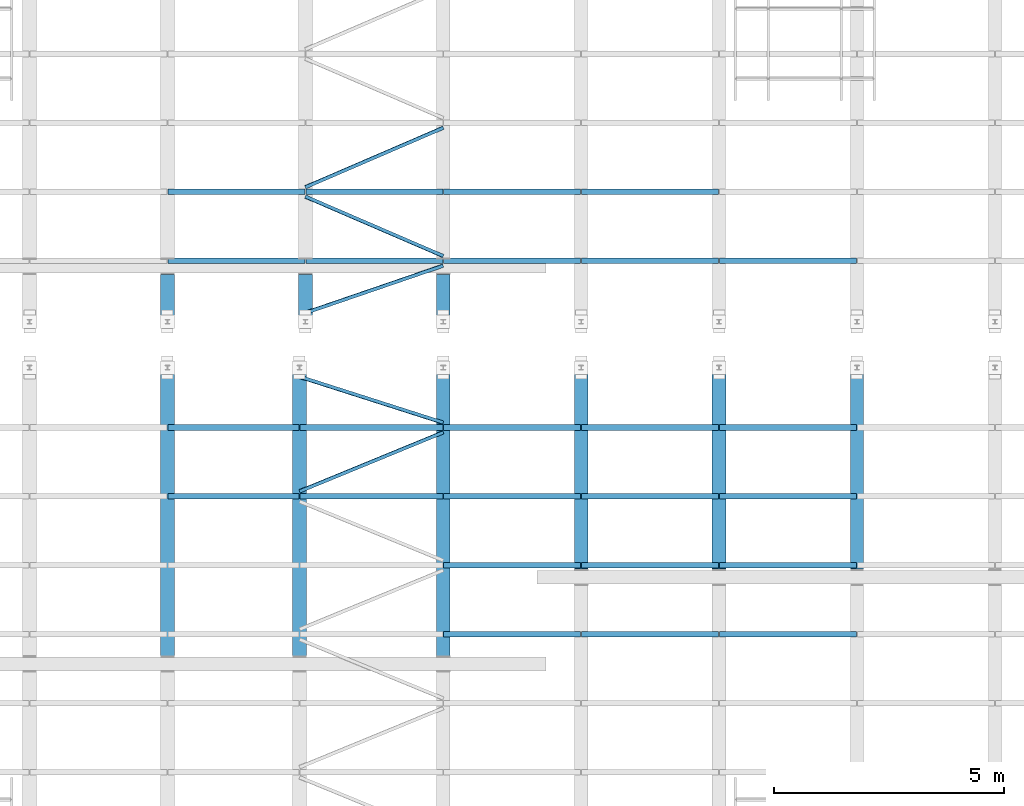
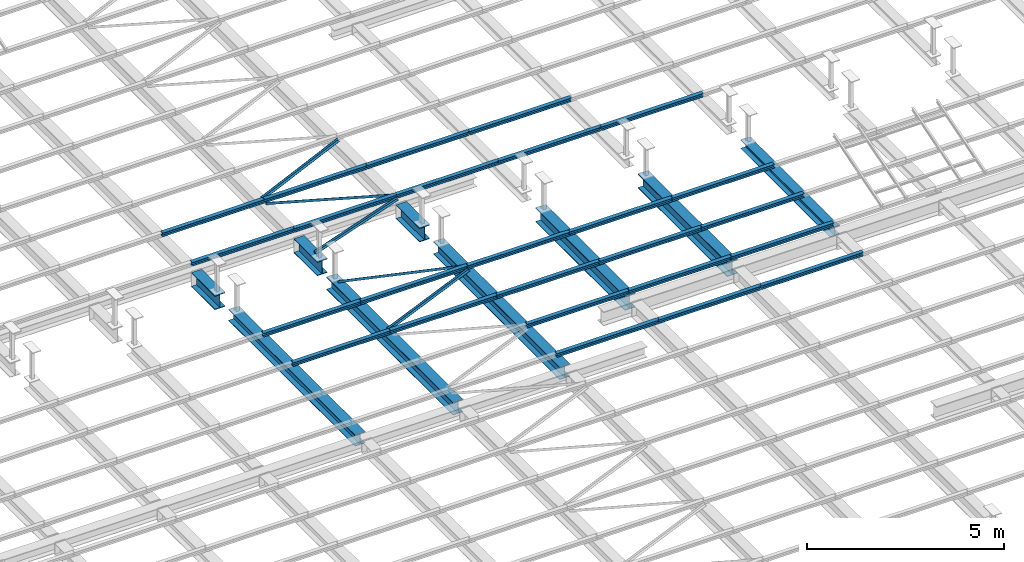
# One storey, part 61 of 139: 39 beams.
"""IFC2X3 building model written with IfcOpenShell, lengths in metres."""

from ifc_helpers import new_model, entity, si_unit, converted_unit, derived_unit, frame, origin, place, context, subcontext, project, spatial, polyline, outline, extrude, material, element, save


model = new_model("IFC2X3")

# Units and contexts
model_context = context("Model", 3, precision=1e-05, world=origin())
body_context = subcontext(model_context, "Body", "Model", "MODEL_VIEW")
ifc_project = project(units=[si_unit("LENGTHUNIT", "METRE"), si_unit("AREAUNIT", "SQUARE_METRE"), si_unit("VOLUMEUNIT", "CUBIC_METRE"), si_unit("MASSUNIT", "GRAM", prefix="KILO"), converted_unit("PLANEANGLEUNIT", "DEGREE", entity("IfcPlaneAngleMeasure", 0.0174532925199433), si_unit("PLANEANGLEUNIT", "RADIAN"), dimensions=[0, 0, 0, 0, 0, 0, 0]), derived_unit("THERMALTRANSMITTANCEUNIT", [(si_unit("POWERUNIT", "WATT"), 1), (si_unit("THERMODYNAMICTEMPERATUREUNIT", "KELVIN"), -1), (si_unit("LENGTHUNIT", "METRE"), -2)]), derived_unit("VOLUMETRICFLOWRATEUNIT", [(si_unit("LENGTHUNIT", "METRE"), 3), (converted_unit("TIMEUNIT", "hour", entity("IfcTimeMeasure", 3600.0), si_unit("TIMEUNIT", "SECOND"), dimensions=[0, 0, 1, 0, 0, 0, 0]), -1), (si_unit("LENGTHUNIT", "METRE"), -1)])], contexts=[model_context])

# Site, building, storey
site_placement = place(None, origin())
site = spatial("IfcSite", under=ifc_project, at=site_placement, Name="TWP_Speiseverteilzentrum SBW VZ II", CompositionType="ELEMENT")
building_placement = place(site_placement, origin())
building = spatial("IfcBuilding", under=site, at=building_placement, Name="Speiseverteilzentrum SBW VZ II", CompositionType="ELEMENT")
storey_placement = place(building_placement, frame((0.0, 0.0, 7.1307)))
storey = spatial("IfcBuildingStorey", under=building, at=storey_placement, Name="Wartung_FFB", CompositionType="ELEMENT", Elevation=7.1307)

# Beams
ifc_material_1 = material(Name="S235")
beam_1_placement = place(storey_placement, frame((43.0500000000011, 70.7522526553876, -0.41), z_axis=(0.0, 0.0, 1.0), x_axis=(1.0, -2.44929359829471e-16, 0.0)))
element("IfcBeam", 1, at=beam_1_placement, inside=storey, material=ifc_material_1, Name="Stahlträger", context=body_context, shape_type="SweptSolid", body=[
    extrude(outline(polyline([(-0.15, 0.22), (-0.15, 0.199), (-0.00574999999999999, 0.199), (-0.00575000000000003, -0.199), (-0.15, -0.199), (-0.15, -0.22), (0.15, -0.22), (0.15, -0.199), (0.00574999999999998, -0.199), (0.00575000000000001, 0.199), (0.15, 0.199), (0.15, 0.22), (-0.15, 0.22)])), frame((0.0, 0.0, 0.0), z_axis=(0.0, 1.0, 0.0), x_axis=(-1.0, 0.0, 0.0)), (0.0, 0.0, 1.0), 1.18224885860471),
])
ifc_material_2 = material(Name="S235")
beam_2_placement = place(storey_placement, frame((46.0500000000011, 70.7522526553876, -0.41), z_axis=(0.0, 0.0, 1.0), x_axis=(1.0, -2.44929359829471e-16, 0.0)))
element("IfcBeam", 2, at=beam_2_placement, inside=storey, material=ifc_material_2, Name="Stahlträger", context=body_context, shape_type="SweptSolid", body=[
    extrude(outline(polyline([(-0.15, 0.22), (-0.15, 0.199), (-0.00574999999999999, 0.199), (-0.00575000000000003, -0.199), (-0.15, -0.199), (-0.15, -0.22), (0.15, -0.22), (0.15, -0.199), (0.00574999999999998, -0.199), (0.00575000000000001, 0.199), (0.15, 0.199), (0.15, 0.22), (-0.15, 0.22)])), frame((0.0, 0.0, 0.0), z_axis=(0.0, 1.0, 0.0), x_axis=(-1.0, 0.0, 0.0)), (0.0, 0.0, 1.0), 1.18224885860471),
])
ifc_material_3 = material(Name="S235")
beam_3_placement = place(storey_placement, frame((49.0500000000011, 70.7522526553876, -0.41), z_axis=(0.0, 0.0, 1.0), x_axis=(1.0, -2.44929359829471e-16, 0.0)))
element("IfcBeam", 3, at=beam_3_placement, inside=storey, material=ifc_material_3, Name="Stahlträger", context=body_context, shape_type="SweptSolid", body=[
    extrude(outline(polyline([(-0.15, 0.22), (-0.15, 0.199), (-0.00574999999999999, 0.199), (-0.00575000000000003, -0.199), (-0.15, -0.199), (-0.15, -0.22), (0.15, -0.22), (0.15, -0.199), (0.00574999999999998, -0.199), (0.00575000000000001, 0.199), (0.15, 0.199), (0.15, 0.22), (-0.15, 0.22)])), frame((0.0, 0.0, 0.0), z_axis=(0.0, 1.0, 0.0), x_axis=(-1.0, 0.0, 0.0)), (0.0, 0.0, 1.0), 1.18224885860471),
])
ifc_material_4 = material(Name="S235")
beam_4_placement = place(storey_placement, frame((43.0500000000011, 70.0522526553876, -0.365), z_axis=(0.0, 0.0, 1.0), x_axis=(-1.0, 0.0, 0.0)))
element("IfcBeam", 4, at=beam_4_placement, inside=storey, material=ifc_material_4, Name="Stahlträger", context=body_context, shape_type="SweptSolid", body=[
    extrude(outline(polyline([(-0.15, 0.175), (-0.15, 0.1575), (-0.00500000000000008, 0.1575), (-0.0050000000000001, -0.1575), (-0.15, -0.1575), (-0.15, -0.175), (0.15, -0.175), (0.15, -0.1575), (0.0049999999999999, -0.1575), (0.00499999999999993, 0.1575), (0.15, 0.1575), (0.15, 0.175), (-0.15, 0.175)])), frame((0.0, 0.0, 0.0), z_axis=(0.0, 1.0, 0.0), x_axis=(-1.0, 0.0, 0.0)), (0.0, 0.0, 1.0), 6.41975940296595),
])
ifc_material_5 = material(Name="S235")
beam_5_placement = place(storey_placement, frame((49.0500000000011, 63.6324932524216, -0.385), z_axis=(0.0, 0.0, 1.0), x_axis=(1.0, -2.44929359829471e-16, 0.0)))
element("IfcBeam", 5, at=beam_5_placement, inside=storey, material=ifc_material_5, Name="Stahlträger", context=body_context, shape_type="SweptSolid", body=[
    extrude(outline(polyline([(-0.15, 0.195), (-0.15, 0.176), (-0.00550000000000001, 0.176), (-0.00550000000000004, -0.176), (-0.15, -0.176), (-0.15, -0.195), (0.15, -0.195), (0.15, -0.176), (0.00549999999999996, -0.176), (0.00549999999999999, 0.176), (0.15, 0.176), (0.15, 0.195), (-0.15, 0.195)])), frame((0.0, 0.0, 0.0), z_axis=(0.0, 1.0, 0.0), x_axis=(-1.0, 0.0, 0.0)), (0.0, 0.0, 1.0), 6.41975940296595),
])
ifc_material_6 = material(Name="S235")
beam_6_placement = place(storey_placement, frame((52.0500000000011, 65.5195685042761, -0.41), z_axis=(0.0, 0.0, 1.0), x_axis=(1.0, -2.44929359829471e-16, 0.0)))
element("IfcBeam", 6, at=beam_6_placement, inside=storey, material=ifc_material_6, Name="Stahlträger", context=body_context, shape_type="SweptSolid", body=[
    extrude(outline(polyline([(-0.15, 0.22), (-0.15, 0.199), (-0.00574999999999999, 0.199), (-0.00575000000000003, -0.199), (-0.15, -0.199), (-0.15, -0.22), (0.15, -0.22), (0.15, -0.199), (0.00574999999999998, -0.199), (0.00575000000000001, 0.199), (0.15, 0.199), (0.15, 0.22), (-0.15, 0.22)])), frame((0.0, 0.0, 0.0), z_axis=(0.0, 1.0, 0.0), x_axis=(-1.0, 0.0, 0.0)), (0.0, 0.0, 1.0), 4.53268415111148),
])
ifc_material_7 = material(Name="S235")
beam_7_placement = place(storey_placement, frame((55.0500000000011, 65.5195685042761, -0.41), z_axis=(0.0, 0.0, 1.0), x_axis=(1.0, -2.44929359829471e-16, 0.0)))
element("IfcBeam", 7, at=beam_7_placement, inside=storey, material=ifc_material_7, Name="Stahlträger", context=body_context, shape_type="SweptSolid", body=[
    extrude(outline(polyline([(-0.15, 0.22), (-0.15, 0.199), (-0.00574999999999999, 0.199), (-0.00575000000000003, -0.199), (-0.15, -0.199), (-0.15, -0.22), (0.15, -0.22), (0.15, -0.199), (0.00574999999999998, -0.199), (0.00575000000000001, 0.199), (0.15, 0.199), (0.15, 0.22), (-0.15, 0.22)])), frame((0.0, 0.0, 0.0), z_axis=(0.0, 1.0, 0.0), x_axis=(-1.0, 0.0, 0.0)), (0.0, 0.0, 1.0), 4.53268415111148),
])
ifc_material_8 = material(Name="S235")
beam_8_placement = place(storey_placement, frame((58.0500000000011, 70.0522526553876, -0.325), z_axis=(0.0, 0.0, 1.0), x_axis=(-1.0, 0.0, 0.0)))
element("IfcBeam", 8, at=beam_8_placement, inside=storey, material=ifc_material_8, Name="Stahlträger", context=body_context, shape_type="SweptSolid", body=[
    extrude(outline(polyline([(-0.14, 0.135), (-0.14, 0.122), (-0.00400000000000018, 0.122), (-0.00400000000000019, -0.122), (-0.14, -0.122), (-0.14, -0.135), (0.14, -0.135), (0.14, -0.122), (0.00399999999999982, -0.122), (0.00399999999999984, 0.122), (0.14, 0.122), (0.14, 0.135), (-0.14, 0.135)])), frame((0.0, 0.0, 0.0), z_axis=(0.0, 1.0, 0.0), x_axis=(-1.0, 0.0, 0.0)), (0.0, 0.0, 1.0), 4.53268415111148),
])
ifc_material_9 = material(Name="S235")
beam_9_placement = place(storey_placement, frame((45.9200000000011, 63.6324932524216, -0.385), z_axis=(0.0, 0.0, 1.0), x_axis=(1.0, -2.44929359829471e-16, 0.0)))
element("IfcBeam", 9, at=beam_9_placement, inside=storey, material=ifc_material_9, Name="Stahlträger", context=body_context, shape_type="SweptSolid", body=[
    extrude(outline(polyline([(-0.15, 0.195), (-0.15, 0.176), (-0.00550000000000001, 0.176), (-0.00550000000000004, -0.176), (-0.15, -0.176), (-0.15, -0.195), (0.15, -0.195), (0.15, -0.176), (0.00549999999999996, -0.176), (0.00549999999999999, 0.176), (0.15, 0.176), (0.15, 0.195), (-0.15, 0.195)])), frame((0.0, 0.0, 0.0), z_axis=(0.0, 1.0, 0.0), x_axis=(-1.0, 0.0, 0.0)), (0.0, 0.0, 1.0), 6.41975940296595),
])
ifc_material_10 = material(Name="S235")
beam_10_placement = place(storey_placement, frame((43.0600000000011, 73.7261263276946, -0.133), z_axis=(0.0, 0.0, 1.0), x_axis=(0.0, -1.0, 0.0)))
element("IfcBeam", 10, at=beam_10_placement, inside=storey, material=ifc_material_10, Name="Nebenträger", context=body_context, shape_type="SweptSolid", body=[
    extrude(outline(polyline([(-0.06, 0.0570000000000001), (-0.06, 0.0490000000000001), (-0.00249999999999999, 0.0490000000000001), (-0.0025, -0.0489999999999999), (-0.06, -0.0489999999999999), (-0.06, -0.0569999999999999), (0.06, -0.0569999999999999), (0.06, -0.0489999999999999), (0.0025, -0.0489999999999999), (0.00250000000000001, 0.0490000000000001), (0.06, 0.0490000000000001), (0.06, 0.0570000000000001), (-0.06, 0.0570000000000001)])), frame((0.0, 0.0, 0.0), z_axis=(0.0, 1.0, 0.0), x_axis=(-1.0, 0.0, 0.0)), (0.0, 0.0, 1.0), 2.98),
])
ifc_material_11 = material(Name="S235")
beam_11_placement = place(storey_placement, frame((46.0600000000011, 73.7261263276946, -0.133), z_axis=(0.0, 0.0, 1.0), x_axis=(0.0, -1.0, 0.0)))
element("IfcBeam", 11, at=beam_11_placement, inside=storey, material=ifc_material_11, Name="Nebenträger", context=body_context, shape_type="SweptSolid", body=[
    extrude(outline(polyline([(-0.06, 0.0570000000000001), (-0.06, 0.0490000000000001), (-0.00249999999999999, 0.0490000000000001), (-0.0025, -0.0489999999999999), (-0.06, -0.0489999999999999), (-0.06, -0.0569999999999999), (0.06, -0.0569999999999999), (0.06, -0.0489999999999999), (0.0025, -0.0489999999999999), (0.00250000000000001, 0.0490000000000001), (0.06, 0.0490000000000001), (0.06, 0.0570000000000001), (-0.06, 0.0570000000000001)])), frame((0.0, 0.0, 0.0), z_axis=(0.0, 1.0, 0.0), x_axis=(-1.0, 0.0, 0.0)), (0.0, 0.0, 1.0), 2.98),
])
ifc_material_12 = material(Name="S235")
beam_12_placement = place(storey_placement, frame((49.0600000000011, 73.7261263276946, -0.133), z_axis=(0.0, 0.0, 1.0), x_axis=(0.0, -1.0, 0.0)))
element("IfcBeam", 12, at=beam_12_placement, inside=storey, material=ifc_material_12, Name="Nebenträger", context=body_context, shape_type="SweptSolid", body=[
    extrude(outline(polyline([(-0.06, 0.0570000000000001), (-0.06, 0.0490000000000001), (-0.00249999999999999, 0.0490000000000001), (-0.0025, -0.0489999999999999), (-0.06, -0.0489999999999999), (-0.06, -0.0569999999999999), (0.06, -0.0569999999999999), (0.06, -0.0489999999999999), (0.0025, -0.0489999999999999), (0.00250000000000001, 0.0490000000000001), (0.06, 0.0490000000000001), (0.06, 0.0570000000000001), (-0.06, 0.0570000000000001)])), frame((0.0, 0.0, 0.0), z_axis=(0.0, 1.0, 0.0), x_axis=(-1.0, 0.0, 0.0)), (0.0, 0.0, 1.0), 2.98),
])
ifc_material_13 = material(Name="S235")
beam_13_placement = place(storey_placement, frame((52.0600000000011, 73.7261263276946, -0.133), z_axis=(0.0, 0.0, 1.0), x_axis=(0.0, -1.0, 0.0)))
element("IfcBeam", 13, at=beam_13_placement, inside=storey, material=ifc_material_13, Name="Nebenträger", context=body_context, shape_type="SweptSolid", body=[
    extrude(outline(polyline([(-0.06, 0.0570000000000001), (-0.06, 0.0490000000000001), (-0.00249999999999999, 0.0490000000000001), (-0.0025, -0.0489999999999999), (-0.06, -0.0489999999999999), (-0.06, -0.0569999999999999), (0.06, -0.0569999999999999), (0.06, -0.0489999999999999), (0.0025, -0.0489999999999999), (0.00250000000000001, 0.0490000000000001), (0.06, 0.0490000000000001), (0.06, 0.0570000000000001), (-0.06, 0.0570000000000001)])), frame((0.0, 0.0, 0.0), z_axis=(0.0, 1.0, 0.0), x_axis=(-1.0, 0.0, 0.0)), (0.0, 0.0, 1.0), 2.98),
])
ifc_material_14 = material(Name="S235")
beam_14_placement = place(storey_placement, frame((43.0600000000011, 72.2261263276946, -0.133), z_axis=(0.0, 0.0, 1.0), x_axis=(0.0, -1.0, 0.0)))
element("IfcBeam", 14, at=beam_14_placement, inside=storey, material=ifc_material_14, Name="Nebenträger", context=body_context, shape_type="SweptSolid", body=[
    extrude(outline(polyline([(-0.06, 0.0570000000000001), (-0.06, 0.0490000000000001), (-0.00249999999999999, 0.0490000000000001), (-0.0025, -0.0489999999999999), (-0.06, -0.0489999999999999), (-0.06, -0.0569999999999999), (0.06, -0.0569999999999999), (0.06, -0.0489999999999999), (0.0025, -0.0489999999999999), (0.00250000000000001, 0.0490000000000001), (0.06, 0.0490000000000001), (0.06, 0.0570000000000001), (-0.06, 0.0570000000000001)])), frame((0.0, 0.0, 0.0), z_axis=(0.0, 1.0, 0.0), x_axis=(-1.0, 0.0, 0.0)), (0.0, 0.0, 1.0), 2.98),
])
ifc_material_15 = material(Name="S235")
beam_15_placement = place(storey_placement, frame((46.0600000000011, 72.2261263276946, -0.133), z_axis=(0.0, 0.0, 1.0), x_axis=(0.0, -1.0, 0.0)))
element("IfcBeam", 15, at=beam_15_placement, inside=storey, material=ifc_material_15, Name="Nebenträger", context=body_context, shape_type="SweptSolid", body=[
    extrude(outline(polyline([(-0.06, 0.0570000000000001), (-0.06, 0.0490000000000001), (-0.00249999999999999, 0.0490000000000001), (-0.0025, -0.0489999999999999), (-0.06, -0.0489999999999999), (-0.06, -0.0569999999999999), (0.06, -0.0569999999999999), (0.06, -0.0489999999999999), (0.0025, -0.0489999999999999), (0.00250000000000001, 0.0490000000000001), (0.06, 0.0490000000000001), (0.06, 0.0570000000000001), (-0.06, 0.0570000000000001)])), frame((0.0, 0.0, 0.0), z_axis=(0.0, 1.0, 0.0), x_axis=(-1.0, 0.0, 0.0)), (0.0, 0.0, 1.0), 2.98),
])
ifc_material_16 = material(Name="S235")
beam_16_placement = place(storey_placement, frame((49.0600000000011, 72.2261263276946, -0.133), z_axis=(0.0, 0.0, 1.0), x_axis=(0.0, -1.0, 0.0)))
element("IfcBeam", 16, at=beam_16_placement, inside=storey, material=ifc_material_16, Name="Nebenträger", context=body_context, shape_type="SweptSolid", body=[
    extrude(outline(polyline([(-0.06, 0.0570000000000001), (-0.06, 0.0490000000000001), (-0.00249999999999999, 0.0490000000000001), (-0.0025, -0.0489999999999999), (-0.06, -0.0489999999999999), (-0.06, -0.0569999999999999), (0.06, -0.0569999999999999), (0.06, -0.0489999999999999), (0.0025, -0.0489999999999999), (0.00250000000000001, 0.0490000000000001), (0.06, 0.0490000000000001), (0.06, 0.0570000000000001), (-0.06, 0.0570000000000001)])), frame((0.0, 0.0, 0.0), z_axis=(0.0, 1.0, 0.0), x_axis=(-1.0, 0.0, 0.0)), (0.0, 0.0, 1.0), 2.98),
])
ifc_material_17 = material(Name="S235")
beam_17_placement = place(storey_placement, frame((52.0600000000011, 72.2261263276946, -0.133), z_axis=(0.0, 0.0, 1.0), x_axis=(0.0, -1.0, 0.0)))
element("IfcBeam", 17, at=beam_17_placement, inside=storey, material=ifc_material_17, Name="Nebenträger", context=body_context, shape_type="SweptSolid", body=[
    extrude(outline(polyline([(-0.06, 0.0570000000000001), (-0.06, 0.0490000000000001), (-0.00249999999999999, 0.0490000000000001), (-0.0025, -0.0489999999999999), (-0.06, -0.0489999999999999), (-0.06, -0.0569999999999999), (0.06, -0.0569999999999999), (0.06, -0.0489999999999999), (0.0025, -0.0489999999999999), (0.00250000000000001, 0.0490000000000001), (0.06, 0.0490000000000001), (0.06, 0.0570000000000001), (-0.06, 0.0570000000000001)])), frame((0.0, 0.0, 0.0), z_axis=(0.0, 1.0, 0.0), x_axis=(-1.0, 0.0, 0.0)), (0.0, 0.0, 1.0), 2.98),
])
ifc_material_18 = material(Name="S235")
beam_18_placement = place(storey_placement, frame((55.0600000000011, 72.2261263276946, -0.133), z_axis=(0.0, 0.0, 1.0), x_axis=(0.0, -1.0, 0.0)))
element("IfcBeam", 18, at=beam_18_placement, inside=storey, material=ifc_material_18, Name="Nebenträger", context=body_context, shape_type="SweptSolid", body=[
    extrude(outline(polyline([(-0.06, 0.0570000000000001), (-0.06, 0.0490000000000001), (-0.00249999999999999, 0.0490000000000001), (-0.0025, -0.0489999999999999), (-0.06, -0.0489999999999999), (-0.06, -0.0569999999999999), (0.06, -0.0569999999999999), (0.06, -0.0489999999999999), (0.0025, -0.0489999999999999), (0.00250000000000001, 0.0490000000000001), (0.06, 0.0490000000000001), (0.06, 0.0570000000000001), (-0.06, 0.0570000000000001)])), frame((0.0, 0.0, 0.0), z_axis=(0.0, 1.0, 0.0), x_axis=(-1.0, 0.0, 0.0)), (0.0, 0.0, 1.0), 2.98),
])
ifc_material_19 = material(Name="S235")
beam_19_placement = place(storey_placement, frame((49.0600000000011, 68.6011263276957, -0.133), z_axis=(0.0, 0.0, 1.0), x_axis=(0.0, -1.0, 0.0)))
element("IfcBeam", 19, at=beam_19_placement, inside=storey, material=ifc_material_19, Name="Nebenträger", context=body_context, shape_type="SweptSolid", body=[
    extrude(outline(polyline([(-0.06, 0.0570000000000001), (-0.06, 0.0490000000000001), (-0.00249999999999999, 0.0490000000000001), (-0.0025, -0.0489999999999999), (-0.06, -0.0489999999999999), (-0.06, -0.0569999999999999), (0.06, -0.0569999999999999), (0.06, -0.0489999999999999), (0.0025, -0.0489999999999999), (0.00250000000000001, 0.0490000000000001), (0.06, 0.0490000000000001), (0.06, 0.0570000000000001), (-0.06, 0.0570000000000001)])), frame((0.0, 0.0, 0.0), z_axis=(0.0, 1.0, 0.0), x_axis=(-1.0, 0.0, 0.0)), (0.0, 0.0, 1.0), 2.98),
])
ifc_material_20 = material(Name="S235")
beam_20_placement = place(storey_placement, frame((52.0600000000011, 68.6011263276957, -0.133), z_axis=(0.0, 0.0, 1.0), x_axis=(0.0, -1.0, 0.0)))
element("IfcBeam", 20, at=beam_20_placement, inside=storey, material=ifc_material_20, Name="Nebenträger", context=body_context, shape_type="SweptSolid", body=[
    extrude(outline(polyline([(-0.06, 0.0570000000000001), (-0.06, 0.0490000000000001), (-0.00249999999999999, 0.0490000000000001), (-0.0025, -0.0489999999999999), (-0.06, -0.0489999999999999), (-0.06, -0.0569999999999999), (0.06, -0.0569999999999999), (0.06, -0.0489999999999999), (0.0025, -0.0489999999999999), (0.00250000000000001, 0.0490000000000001), (0.06, 0.0490000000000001), (0.06, 0.0570000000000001), (-0.06, 0.0570000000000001)])), frame((0.0, 0.0, 0.0), z_axis=(0.0, 1.0, 0.0), x_axis=(-1.0, 0.0, 0.0)), (0.0, 0.0, 1.0), 2.98),
])
ifc_material_21 = material(Name="S235")
beam_21_placement = place(storey_placement, frame((55.0600000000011, 68.6011263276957, -0.133), z_axis=(0.0, 0.0, 1.0), x_axis=(0.0, -1.0, 0.0)))
element("IfcBeam", 21, at=beam_21_placement, inside=storey, material=ifc_material_21, Name="Nebenträger", context=body_context, shape_type="SweptSolid", body=[
    extrude(outline(polyline([(-0.06, 0.0570000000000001), (-0.06, 0.0490000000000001), (-0.00249999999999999, 0.0490000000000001), (-0.0025, -0.0489999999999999), (-0.06, -0.0489999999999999), (-0.06, -0.0569999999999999), (0.06, -0.0569999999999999), (0.06, -0.0489999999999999), (0.0025, -0.0489999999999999), (0.00250000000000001, 0.0490000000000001), (0.06, 0.0490000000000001), (0.06, 0.0570000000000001), (-0.06, 0.0570000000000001)])), frame((0.0, 0.0, 0.0), z_axis=(0.0, 1.0, 0.0), x_axis=(-1.0, 0.0, 0.0)), (0.0, 0.0, 1.0), 2.98),
])
ifc_material_22 = material(Name="S235")
beam_22_placement = place(storey_placement, frame((49.0600000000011, 67.1011263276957, -0.133), z_axis=(0.0, 0.0, 1.0), x_axis=(0.0, -1.0, 0.0)))
element("IfcBeam", 22, at=beam_22_placement, inside=storey, material=ifc_material_22, Name="Nebenträger", context=body_context, shape_type="SweptSolid", body=[
    extrude(outline(polyline([(-0.06, 0.0570000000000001), (-0.06, 0.0490000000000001), (-0.00249999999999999, 0.0490000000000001), (-0.0025, -0.0489999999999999), (-0.06, -0.0489999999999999), (-0.06, -0.0569999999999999), (0.06, -0.0569999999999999), (0.06, -0.0489999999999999), (0.0025, -0.0489999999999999), (0.00250000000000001, 0.0490000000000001), (0.06, 0.0490000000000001), (0.06, 0.0570000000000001), (-0.06, 0.0570000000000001)])), frame((0.0, 0.0, 0.0), z_axis=(0.0, 1.0, 0.0), x_axis=(-1.0, 0.0, 0.0)), (0.0, 0.0, 1.0), 2.98),
])
ifc_material_23 = material(Name="S235")
beam_23_placement = place(storey_placement, frame((52.0600000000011, 67.1011263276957, -0.133), z_axis=(0.0, 0.0, 1.0), x_axis=(0.0, -1.0, 0.0)))
element("IfcBeam", 23, at=beam_23_placement, inside=storey, material=ifc_material_23, Name="Nebenträger", context=body_context, shape_type="SweptSolid", body=[
    extrude(outline(polyline([(-0.06, 0.0570000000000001), (-0.06, 0.0490000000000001), (-0.00249999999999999, 0.0490000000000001), (-0.0025, -0.0489999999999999), (-0.06, -0.0489999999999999), (-0.06, -0.0569999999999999), (0.06, -0.0569999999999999), (0.06, -0.0489999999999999), (0.0025, -0.0489999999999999), (0.00250000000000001, 0.0490000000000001), (0.06, 0.0490000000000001), (0.06, 0.0570000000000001), (-0.06, 0.0570000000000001)])), frame((0.0, 0.0, 0.0), z_axis=(0.0, 1.0, 0.0), x_axis=(-1.0, 0.0, 0.0)), (0.0, 0.0, 1.0), 2.98),
])
ifc_material_24 = material(Name="S235")
beam_24_placement = place(storey_placement, frame((55.0600000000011, 67.1011263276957, -0.133), z_axis=(0.0, 0.0, 1.0), x_axis=(0.0, -1.0, 0.0)))
element("IfcBeam", 24, at=beam_24_placement, inside=storey, material=ifc_material_24, Name="Nebenträger", context=body_context, shape_type="SweptSolid", body=[
    extrude(outline(polyline([(-0.06, 0.0570000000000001), (-0.06, 0.0490000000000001), (-0.00249999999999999, 0.0490000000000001), (-0.0025, -0.0489999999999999), (-0.06, -0.0489999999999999), (-0.06, -0.0569999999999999), (0.06, -0.0569999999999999), (0.06, -0.0489999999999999), (0.0025, -0.0489999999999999), (0.00250000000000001, 0.0490000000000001), (0.06, 0.0490000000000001), (0.06, 0.0570000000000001), (-0.06, 0.0570000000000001)])), frame((0.0, 0.0, 0.0), z_axis=(0.0, 1.0, 0.0), x_axis=(-1.0, 0.0, 0.0)), (0.0, 0.0, 1.0), 2.98),
])
ifc_material_25 = material(Name="S235")
beam_25_placement = place(storey_placement, frame((49.0600000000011, 65.6011263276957, -0.133), z_axis=(0.0, 0.0, 1.0), x_axis=(0.0, -1.0, 0.0)))
element("IfcBeam", 25, at=beam_25_placement, inside=storey, material=ifc_material_25, Name="Nebenträger", context=body_context, shape_type="SweptSolid", body=[
    extrude(outline(polyline([(-0.06, 0.0570000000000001), (-0.06, 0.0490000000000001), (-0.00249999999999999, 0.0490000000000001), (-0.0025, -0.0489999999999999), (-0.06, -0.0489999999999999), (-0.06, -0.0569999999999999), (0.06, -0.0569999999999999), (0.06, -0.0489999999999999), (0.0025, -0.0489999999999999), (0.00250000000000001, 0.0490000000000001), (0.06, 0.0490000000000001), (0.06, 0.0570000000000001), (-0.06, 0.0570000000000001)])), frame((0.0, 0.0, 0.0), z_axis=(0.0, 1.0, 0.0), x_axis=(-1.0, 0.0, 0.0)), (0.0, 0.0, 1.0), 2.98),
])
ifc_material_26 = material(Name="S235")
beam_26_placement = place(storey_placement, frame((52.0600000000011, 65.6011263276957, -0.133), z_axis=(0.0, 0.0, 1.0), x_axis=(0.0, -1.0, 0.0)))
element("IfcBeam", 26, at=beam_26_placement, inside=storey, material=ifc_material_26, Name="Nebenträger", context=body_context, shape_type="SweptSolid", body=[
    extrude(outline(polyline([(-0.06, 0.0570000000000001), (-0.06, 0.0490000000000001), (-0.00249999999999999, 0.0490000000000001), (-0.0025, -0.0489999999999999), (-0.06, -0.0489999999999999), (-0.06, -0.0569999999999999), (0.06, -0.0569999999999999), (0.06, -0.0489999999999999), (0.0025, -0.0489999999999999), (0.00250000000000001, 0.0490000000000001), (0.06, 0.0490000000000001), (0.06, 0.0570000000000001), (-0.06, 0.0570000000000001)])), frame((0.0, 0.0, 0.0), z_axis=(0.0, 1.0, 0.0), x_axis=(-1.0, 0.0, 0.0)), (0.0, 0.0, 1.0), 2.98),
])
ifc_material_27 = material(Name="S235")
beam_27_placement = place(storey_placement, frame((55.0600000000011, 65.6011263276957, -0.133), z_axis=(0.0, 0.0, 1.0), x_axis=(0.0, -1.0, 0.0)))
element("IfcBeam", 27, at=beam_27_placement, inside=storey, material=ifc_material_27, Name="Nebenträger", context=body_context, shape_type="SweptSolid", body=[
    extrude(outline(polyline([(-0.06, 0.0570000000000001), (-0.06, 0.0490000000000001), (-0.00249999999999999, 0.0490000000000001), (-0.0025, -0.0489999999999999), (-0.06, -0.0489999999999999), (-0.06, -0.0569999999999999), (0.06, -0.0569999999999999), (0.06, -0.0489999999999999), (0.0025, -0.0489999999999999), (0.00250000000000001, 0.0490000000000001), (0.06, 0.0490000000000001), (0.06, 0.0570000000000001), (-0.06, 0.0570000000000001)])), frame((0.0, 0.0, 0.0), z_axis=(0.0, 1.0, 0.0), x_axis=(-1.0, 0.0, 0.0)), (0.0, 0.0, 1.0), 2.98),
])
ifc_material_28 = material(Name="S235")
beam_28_placement = place(storey_placement, frame((49.0600000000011, 64.1011263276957, -0.133), z_axis=(0.0, 0.0, 1.0), x_axis=(0.0, -1.0, 0.0)))
element("IfcBeam", 28, at=beam_28_placement, inside=storey, material=ifc_material_28, Name="Nebenträger", context=body_context, shape_type="SweptSolid", body=[
    extrude(outline(polyline([(-0.06, 0.0570000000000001), (-0.06, 0.0490000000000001), (-0.00249999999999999, 0.0490000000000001), (-0.0025, -0.0489999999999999), (-0.06, -0.0489999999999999), (-0.06, -0.0569999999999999), (0.06, -0.0569999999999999), (0.06, -0.0489999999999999), (0.0025, -0.0489999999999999), (0.00250000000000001, 0.0490000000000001), (0.06, 0.0490000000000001), (0.06, 0.0570000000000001), (-0.06, 0.0570000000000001)])), frame((0.0, 0.0, 0.0), z_axis=(0.0, 1.0, 0.0), x_axis=(-1.0, 0.0, 0.0)), (0.0, 0.0, 1.0), 2.98),
])
ifc_material_29 = material(Name="S235")
beam_29_placement = place(storey_placement, frame((52.0600000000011, 64.1011263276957, -0.133), z_axis=(0.0, 0.0, 1.0), x_axis=(0.0, -1.0, 0.0)))
element("IfcBeam", 29, at=beam_29_placement, inside=storey, material=ifc_material_29, Name="Nebenträger", context=body_context, shape_type="SweptSolid", body=[
    extrude(outline(polyline([(-0.06, 0.0570000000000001), (-0.06, 0.0490000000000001), (-0.00249999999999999, 0.0490000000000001), (-0.0025, -0.0489999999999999), (-0.06, -0.0489999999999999), (-0.06, -0.0569999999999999), (0.06, -0.0569999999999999), (0.06, -0.0489999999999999), (0.0025, -0.0489999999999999), (0.00250000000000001, 0.0490000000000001), (0.06, 0.0490000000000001), (0.06, 0.0570000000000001), (-0.06, 0.0570000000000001)])), frame((0.0, 0.0, 0.0), z_axis=(0.0, 1.0, 0.0), x_axis=(-1.0, 0.0, 0.0)), (0.0, 0.0, 1.0), 2.98),
])
ifc_material_30 = material(Name="S235")
beam_30_placement = place(storey_placement, frame((55.0600000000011, 64.1011263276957, -0.133), z_axis=(0.0, 0.0, 1.0), x_axis=(0.0, -1.0, 0.0)))
element("IfcBeam", 30, at=beam_30_placement, inside=storey, material=ifc_material_30, Name="Nebenträger", context=body_context, shape_type="SweptSolid", body=[
    extrude(outline(polyline([(-0.06, 0.0570000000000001), (-0.06, 0.0490000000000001), (-0.00249999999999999, 0.0490000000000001), (-0.0025, -0.0489999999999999), (-0.06, -0.0489999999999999), (-0.06, -0.0569999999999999), (0.06, -0.0569999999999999), (0.06, -0.0489999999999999), (0.0025, -0.0489999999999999), (0.00250000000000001, 0.0490000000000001), (0.06, 0.0490000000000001), (0.06, 0.0570000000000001), (-0.06, 0.0570000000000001)])), frame((0.0, 0.0, 0.0), z_axis=(0.0, 1.0, 0.0), x_axis=(-1.0, 0.0, 0.0)), (0.0, 0.0, 1.0), 2.98),
])
ifc_material_31 = material(Name="S235")
beam_31_placement = place(storey_placement, frame((46.0406913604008, 73.8445193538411, -0.167052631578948), z_axis=(0.0, 0.0, 1.0), x_axis=(0.395932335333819, -0.91827968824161, 0.0)))
element("IfcBeam", 31, at=beam_31_placement, inside=storey, material=ifc_material_31, Name="Kreuzverband", context=body_context, shape_type="SweptSolid", body=[
    extrude(outline(polyline([(0.0229473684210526, -0.0229473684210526), (0.0229473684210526, 0.0570526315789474), (0.0149473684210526, 0.0570526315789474), (0.0149473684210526, -0.0149473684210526), (-0.0570526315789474, -0.0149473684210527), (-0.0570526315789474, -0.0229473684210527), (0.0229473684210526, -0.0229473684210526)])), frame((0.0, 0.0, 0.0), z_axis=(0.0, 0.999999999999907, 0.0), x_axis=(-1.0, 0.0, 0.0)), (0.0, 0.0, 1.0), 3.27000000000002),
])
ifc_material_32 = material(Name="S235")
beam_32_placement = place(storey_placement, frame((46.0406913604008, 73.607733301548, -0.167052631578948), z_axis=(0.0, 0.0, 1.0), x_axis=(-0.395932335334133, -0.918279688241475, 0.0)))
element("IfcBeam", 32, at=beam_32_placement, inside=storey, material=ifc_material_32, Name="Kreuzverband", context=body_context, shape_type="SweptSolid", body=[
    extrude(outline(polyline([(0.0570526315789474, -0.0229473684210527), (0.0570526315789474, -0.0149473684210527), (-0.0149473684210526, -0.0149473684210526), (-0.0149473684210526, 0.0570526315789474), (-0.0229473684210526, 0.0570526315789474), (-0.0229473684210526, -0.0229473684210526), (0.0570526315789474, -0.0229473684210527)])), frame((0.0, 0.0, 0.0), z_axis=(0.0, 1.00000000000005, 0.0), x_axis=(-1.0, 0.0, 0.0)), (0.0, 0.0, 1.0), 3.27000000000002),
])
ifc_material_33 = material(Name="S235")
beam_33_placement = place(storey_placement, frame((43.0600000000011, 68.6011263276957, -0.133), z_axis=(0.0, 0.0, 1.0), x_axis=(0.0, -1.0, 0.0)))
element("IfcBeam", 33, at=beam_33_placement, inside=storey, material=ifc_material_33, Name="Nebenträger", context=body_context, shape_type="SweptSolid", body=[
    extrude(outline(polyline([(-0.06, 0.0570000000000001), (-0.06, 0.0490000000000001), (-0.00249999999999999, 0.0490000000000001), (-0.0025, -0.0489999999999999), (-0.06, -0.0489999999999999), (-0.06, -0.0569999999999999), (0.06, -0.0569999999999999), (0.06, -0.0489999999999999), (0.0025, -0.0489999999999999), (0.00250000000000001, 0.0490000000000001), (0.06, 0.0490000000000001), (0.06, 0.0570000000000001), (-0.06, 0.0570000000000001)])), frame((0.0, 0.0, 0.0), z_axis=(0.0, 1.0, 0.0), x_axis=(-1.0, 0.0, 0.0)), (0.0, 0.0, 1.0), 2.85),
])
ifc_material_34 = material(Name="S235")
beam_34_placement = place(storey_placement, frame((45.9300000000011, 68.6011263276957, -0.133), z_axis=(0.0, 0.0, 1.0), x_axis=(0.0, -1.0, 0.0)))
element("IfcBeam", 34, at=beam_34_placement, inside=storey, material=ifc_material_34, Name="Nebenträger", context=body_context, shape_type="SweptSolid", body=[
    extrude(outline(polyline([(-0.06, 0.0570000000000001), (-0.06, 0.0490000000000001), (-0.00249999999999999, 0.0490000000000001), (-0.0025, -0.0489999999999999), (-0.06, -0.0489999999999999), (-0.06, -0.0569999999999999), (0.06, -0.0569999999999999), (0.06, -0.0489999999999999), (0.0025, -0.0489999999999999), (0.00250000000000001, 0.0490000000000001), (0.06, 0.0490000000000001), (0.06, 0.0570000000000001), (-0.06, 0.0570000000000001)])), frame((0.0, 0.0, 0.0), z_axis=(0.0, 1.0, 0.0), x_axis=(-1.0, 0.0, 0.0)), (0.0, 0.0, 1.0), 3.11),
])
ifc_material_35 = material(Name="S235")
beam_35_placement = place(storey_placement, frame((43.0600000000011, 67.1011263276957, -0.133), z_axis=(0.0, 0.0, 1.0), x_axis=(0.0, -1.0, 0.0)))
element("IfcBeam", 35, at=beam_35_placement, inside=storey, material=ifc_material_35, Name="Nebenträger", context=body_context, shape_type="SweptSolid", body=[
    extrude(outline(polyline([(-0.06, 0.0570000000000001), (-0.06, 0.0490000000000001), (-0.00249999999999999, 0.0490000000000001), (-0.0025, -0.0489999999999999), (-0.06, -0.0489999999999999), (-0.06, -0.0569999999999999), (0.06, -0.0569999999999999), (0.06, -0.0489999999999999), (0.0025, -0.0489999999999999), (0.00250000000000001, 0.0490000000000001), (0.06, 0.0490000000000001), (0.06, 0.0570000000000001), (-0.06, 0.0570000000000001)])), frame((0.0, 0.0, 0.0), z_axis=(0.0, 1.0, 0.0), x_axis=(-1.0, 0.0, 0.0)), (0.0, 0.0, 1.0), 2.85),
])
ifc_material_36 = material(Name="S235")
beam_36_placement = place(storey_placement, frame((45.9300000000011, 67.1011263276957, -0.133), z_axis=(0.0, 0.0, 1.0), x_axis=(0.0, -1.0, 0.0)))
element("IfcBeam", 36, at=beam_36_placement, inside=storey, material=ifc_material_36, Name="Nebenträger", context=body_context, shape_type="SweptSolid", body=[
    extrude(outline(polyline([(-0.06, 0.0570000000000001), (-0.06, 0.0490000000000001), (-0.00249999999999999, 0.0490000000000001), (-0.0025, -0.0489999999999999), (-0.06, -0.0489999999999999), (-0.06, -0.0569999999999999), (0.06, -0.0569999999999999), (0.06, -0.0489999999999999), (0.0025, -0.0489999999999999), (0.00250000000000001, 0.0490000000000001), (0.06, 0.0490000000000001), (0.06, 0.0570000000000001), (-0.06, 0.0570000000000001)])), frame((0.0, 0.0, 0.0), z_axis=(0.0, 1.0, 0.0), x_axis=(-1.0, 0.0, 0.0)), (0.0, 0.0, 1.0), 3.11),
])
ifc_material_37 = material(Name="S235")
beam_37_placement = place(storey_placement, frame((45.9169632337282, 67.2289069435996, -0.167052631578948), z_axis=(0.0, 0.0, 1.0), x_axis=(0.380224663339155, -0.924894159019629, 0.0)))
element("IfcBeam", 37, at=beam_37_placement, inside=storey, material=ifc_material_37, Name="Kreuzverband", context=body_context, shape_type="SweptSolid", body=[
    extrude(outline(polyline([(0.0229473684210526, -0.0229473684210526), (0.0229473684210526, 0.0570526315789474), (0.0149473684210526, 0.0570526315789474), (0.0149473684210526, -0.0149473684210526), (-0.0570526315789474, -0.0149473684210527), (-0.0570526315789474, -0.0229473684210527), (0.0229473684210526, -0.0229473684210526)])), frame((0.0, 0.0, 0.0), z_axis=(0.0, 0.999999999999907, 0.0), x_axis=(-1.0, 0.0, 0.0)), (0.0, 0.0, 1.0), 3.38000000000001),
])
ifc_material_38 = material(Name="S235")
beam_38_placement = place(storey_placement, frame((46.0377063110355, 71.1092096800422, -0.167052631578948), z_axis=(0.0, 0.0, 1.0), x_axis=(0.32415265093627, -0.946004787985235, 0.0)))
element("IfcBeam", 38, at=beam_38_placement, inside=storey, material=ifc_material_38, Name="Kreuzverband", context=body_context, shape_type="SweptSolid", body=[
    extrude(outline(polyline([(0.0229473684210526, -0.0229473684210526), (0.0229473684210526, 0.0570526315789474), (0.0149473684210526, 0.0570526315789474), (0.0149473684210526, -0.0149473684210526), (-0.0570526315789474, -0.0149473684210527), (-0.0570526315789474, -0.0229473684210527), (0.0229473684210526, -0.0229473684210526)])), frame((0.0, 0.0, 0.0), z_axis=(0.0, 0.999999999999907, 0.0), x_axis=(-1.0, 0.0, 0.0)), (0.0, 0.0, 1.0), 3.17557850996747),
])
ifc_material_39 = material(Name="S235")
beam_39_placement = place(storey_placement, frame((45.8982112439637, 69.6939609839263, -0.167052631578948), z_axis=(0.0, 0.0, 1.0), x_axis=(-0.304591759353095, -0.952482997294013, 0.0)))
element("IfcBeam", 39, at=beam_39_placement, inside=storey, material=ifc_material_39, Name="Kreuzverband", context=body_context, shape_type="SweptSolid", body=[
    extrude(outline(polyline([(0.0570526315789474, -0.0229473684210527), (0.0570526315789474, -0.0149473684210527), (-0.0149473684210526, -0.0149473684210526), (-0.0149473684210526, 0.0570526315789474), (-0.0229473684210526, 0.0570526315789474), (-0.0229473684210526, -0.0229473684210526), (0.0570526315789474, -0.0229473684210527)])), frame((0.0, 0.0, 0.0), z_axis=(0.0, 1.00000000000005, 0.0), x_axis=(-1.0, 0.0, 0.0)), (0.0, 0.0, 1.0), 3.29996302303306),
])

save(model, "model.ifc")
